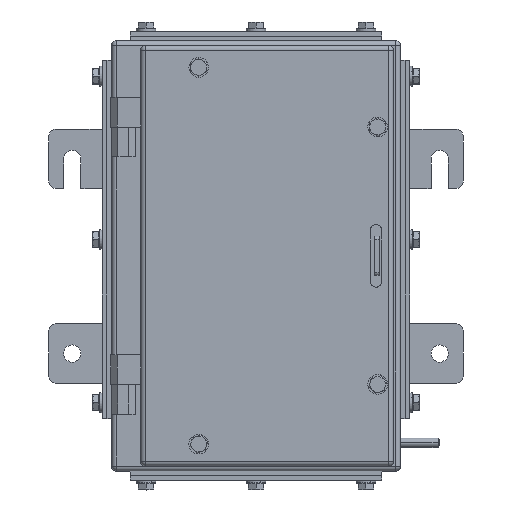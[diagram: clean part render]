
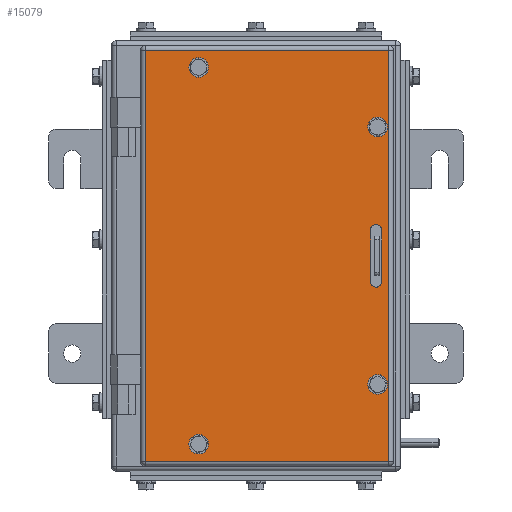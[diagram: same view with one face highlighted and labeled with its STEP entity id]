
A CAD part, top view. The second image highlights one B-rep face of the part: STEP entity #15079.
In plain terms, the highlighted planar face has unit normal (0, 0, 1).
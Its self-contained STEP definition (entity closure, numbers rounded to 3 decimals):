
#273 = ORIENTED_EDGE ( 'NONE', *, *, #11346, .T. ) ;
#331 = VERTEX_POINT ( 'NONE', #4341 ) ;
#391 = DIRECTION ( 'NONE',  ( 0., 0., 1. ) ) ;
#488 = EDGE_CURVE ( 'NONE', #1286, #4651, #4768, .T. ) ;
#516 = CARTESIAN_POINT ( 'NONE',  ( 158.5, -82., 18. ) ) ;
#822 = VERTEX_POINT ( 'NONE', #14802 ) ;
#1286 = VERTEX_POINT ( 'NONE', #13077 ) ;
#1326 = EDGE_CURVE ( 'NONE', #1595, #15748, #7083, .T. ) ;
#1349 = CARTESIAN_POINT ( 'NONE',  ( 44.5, -120., 18. ) ) ;
#1595 = VERTEX_POINT ( 'NONE', #15881 ) ;
#1616 = DIRECTION ( 'NONE',  ( 0., 0., 1. ) ) ;
#1644 = VECTOR ( 'NONE', #3699, 1000. ) ;
#1782 = EDGE_LOOP ( 'NONE', ( #20280, #21926 ) ) ;
#1883 = CARTESIAN_POINT ( 'NONE',  ( 169., 134., 18. ) ) ;
#2087 = VERTEX_POINT ( 'NONE', #6098 ) ;
#2167 = CARTESIAN_POINT ( 'NONE',  ( 14., 131., 18. ) ) ;
#2265 = CARTESIAN_POINT ( 'NONE',  ( 164.5, -16.5, 18. ) ) ;
#2542 = EDGE_CURVE ( 'NONE', #15748, #1595, #11794, .T. ) ;
#2694 = CARTESIAN_POINT ( 'NONE',  ( 162., 82., 18. ) ) ;
#2868 = VERTEX_POINT ( 'NONE', #19075 ) ;
#2951 = DIRECTION ( 'NONE',  ( 1., 0., 0. ) ) ;
#3109 = DIRECTION ( 'NONE',  ( 1., 0., 0. ) ) ;
#3331 = DIRECTION ( 'NONE',  ( 1., 0., 0. ) ) ;
#3413 = CARTESIAN_POINT ( 'NONE',  ( 157.5, 16.5, 18. ) ) ;
#3460 = AXIS2_PLACEMENT_3D ( 'NONE', #19292, #12585, #19395 ) ;
#3584 = EDGE_CURVE ( 'NONE', #7178, #6102, #12962, .T. ) ;
#3699 = DIRECTION ( 'NONE',  ( 1., 0., 0. ) ) ;
#3953 = EDGE_CURVE ( 'NONE', #822, #7178, #15215, .T. ) ;
#3997 = EDGE_LOOP ( 'NONE', ( #6697, #21460, #7171, #15665 ) ) ;
#4257 = EDGE_CURVE ( 'NONE', #10124, #2868, #14855, .T. ) ;
#4341 = CARTESIAN_POINT ( 'NONE',  ( 14., -131., 18. ) ) ;
#4508 = CIRCLE ( 'NONE', #14478, 3.5 ) ;
#4610 = FACE_BOUND ( 'NONE', #5254, .T. ) ;
#4613 = CARTESIAN_POINT ( 'NONE',  ( 162., 82., 18. ) ) ;
#4651 = VERTEX_POINT ( 'NONE', #21944 ) ;
#4740 = CIRCLE ( 'NONE', #12905, 3.5 ) ;
#4768 = CIRCLE ( 'NONE', #10830, 3.5 ) ;
#4844 = DIRECTION ( 'NONE',  ( -1., 0., 0. ) ) ;
#5198 = VECTOR ( 'NONE', #7077, 1000. ) ;
#5254 = EDGE_LOOP ( 'NONE', ( #11193, #18736 ) ) ;
#5616 = DIRECTION ( 'NONE',  ( 1., 0., 0. ) ) ;
#6098 = CARTESIAN_POINT ( 'NONE',  ( 169., 131., 18. ) ) ;
#6102 = VERTEX_POINT ( 'NONE', #19060 ) ;
#6279 = DIRECTION ( 'NONE',  ( 0., 0., 1. ) ) ;
#6553 = DIRECTION ( 'NONE',  ( -1., 0., 0. ) ) ;
#6632 = ORIENTED_EDGE ( 'NONE', *, *, #2542, .F. ) ;
#6661 = CARTESIAN_POINT ( 'NONE',  ( 48., 120., 18. ) ) ;
#6667 = LINE ( 'NONE', #1883, #10794 ) ;
#6697 = ORIENTED_EDGE ( 'NONE', *, *, #13395, .F. ) ;
#6746 = ORIENTED_EDGE ( 'NONE', *, *, #21207, .T. ) ;
#6787 = CARTESIAN_POINT ( 'NONE',  ( 48., 120., 18. ) ) ;
#7077 = DIRECTION ( 'NONE',  ( 0., -1., 0. ) ) ;
#7083 = CIRCLE ( 'NONE', #19539, 3.5 ) ;
#7171 = ORIENTED_EDGE ( 'NONE', *, *, #3584, .F. ) ;
#7178 = VERTEX_POINT ( 'NONE', #2265 ) ;
#7592 = VECTOR ( 'NONE', #6553, 1000. ) ;
#7608 = AXIS2_PLACEMENT_3D ( 'NONE', #6661, #18610, #3331 ) ;
#7777 = CARTESIAN_POINT ( 'NONE',  ( 157.5, 16.5, 18. ) ) ;
#7951 = CARTESIAN_POINT ( 'NONE',  ( 164.5, 16.5, 18. ) ) ;
#8031 = DIRECTION ( 'NONE',  ( 1., 0., 0. ) ) ;
#8251 = EDGE_CURVE ( 'NONE', #22004, #12233, #21164, .T. ) ;
#8426 = LINE ( 'NONE', #3413, #5198 ) ;
#9151 = LINE ( 'NONE', #15526, #1644 ) ;
#9621 = FACE_BOUND ( 'NONE', #17035, .T. ) ;
#9654 = EDGE_CURVE ( 'NONE', #6102, #21286, #13597, .T. ) ;
#9730 = DIRECTION ( 'NONE',  ( 1., 0., 0. ) ) ;
#9944 = DIRECTION ( 'NONE',  ( 1., 0., 0. ) ) ;
#9973 = AXIS2_PLACEMENT_3D ( 'NONE', #14865, #19981, #9944 ) ;
#10124 = VERTEX_POINT ( 'NONE', #1349 ) ;
#10238 = VERTEX_POINT ( 'NONE', #12037 ) ;
#10446 = DIRECTION ( 'NONE',  ( 0., 1., 0. ) ) ;
#10794 = VECTOR ( 'NONE', #10446, 1000. ) ;
#10830 = AXIS2_PLACEMENT_3D ( 'NONE', #6787, #11566, #3109 ) ;
#11182 = PLANE ( 'NONE',  #16669 ) ;
#11193 = ORIENTED_EDGE ( 'NONE', *, *, #488, .F. ) ;
#11346 = EDGE_CURVE ( 'NONE', #2087, #14146, #21496, .T. ) ;
#11398 = FACE_BOUND ( 'NONE', #18797, .T. ) ;
#11403 = ORIENTED_EDGE ( 'NONE', *, *, #20848, .F. ) ;
#11512 = CARTESIAN_POINT ( 'NONE',  ( 172., 134., 18. ) ) ;
#11566 = DIRECTION ( 'NONE',  ( 0., 0., 1. ) ) ;
#11632 = EDGE_CURVE ( 'NONE', #4651, #1286, #17242, .T. ) ;
#11794 = CIRCLE ( 'NONE', #12143, 3.5 ) ;
#11945 = VECTOR ( 'NONE', #17586, 1000. ) ;
#12037 = CARTESIAN_POINT ( 'NONE',  ( 169., -131., 18. ) ) ;
#12143 = AXIS2_PLACEMENT_3D ( 'NONE', #2694, #12820, #16416 ) ;
#12233 = VERTEX_POINT ( 'NONE', #516 ) ;
#12439 = LINE ( 'NONE', #19252, #11945 ) ;
#12585 = DIRECTION ( 'NONE',  ( 0., 0., 1. ) ) ;
#12820 = DIRECTION ( 'NONE',  ( 0., 0., 1. ) ) ;
#12822 = CARTESIAN_POINT ( 'NONE',  ( 161., -16.5, 18. ) ) ;
#12905 = AXIS2_PLACEMENT_3D ( 'NONE', #17338, #391, #5616 ) ;
#12962 = LINE ( 'NONE', #7951, #21757 ) ;
#13059 = DIRECTION ( 'NONE',  ( 1., 0., 0. ) ) ;
#13077 = CARTESIAN_POINT ( 'NONE',  ( 51.5, 120., 18. ) ) ;
#13123 = CARTESIAN_POINT ( 'NONE',  ( 172., 131., 18. ) ) ;
#13395 = EDGE_CURVE ( 'NONE', #21286, #822, #8426, .T. ) ;
#13597 = CIRCLE ( 'NONE', #9973, 3.5 ) ;
#13783 = EDGE_CURVE ( 'NONE', #2868, #10124, #4508, .T. ) ;
#13879 = CARTESIAN_POINT ( 'NONE',  ( 165.5, -82., 18. ) ) ;
#14010 = ORIENTED_EDGE ( 'NONE', *, *, #20346, .T. ) ;
#14146 = VERTEX_POINT ( 'NONE', #2167 ) ;
#14412 = EDGE_LOOP ( 'NONE', ( #6746, #21194, #273, #14010 ) ) ;
#14478 = AXIS2_PLACEMENT_3D ( 'NONE', #19988, #6279, #9730 ) ;
#14802 = CARTESIAN_POINT ( 'NONE',  ( 157.5, -16.5, 18. ) ) ;
#14855 = CIRCLE ( 'NONE', #3460, 3.5 ) ;
#14865 = CARTESIAN_POINT ( 'NONE',  ( 161., 16.5, 18. ) ) ;
#15040 = CARTESIAN_POINT ( 'NONE',  ( 165.5, 82., 18. ) ) ;
#15079 = ADVANCED_FACE ( 'NONE', ( #11398, #9621, #21341, #19666, #4610, #21670 ), #11182, .F. ) ;
#15215 = CIRCLE ( 'NONE', #18766, 3.5 ) ;
#15440 = ORIENTED_EDGE ( 'NONE', *, *, #1326, .F. ) ;
#15526 = CARTESIAN_POINT ( 'NONE',  ( 172., -131., 18. ) ) ;
#15665 = ORIENTED_EDGE ( 'NONE', *, *, #3953, .F. ) ;
#15748 = VERTEX_POINT ( 'NONE', #15040 ) ;
#15881 = CARTESIAN_POINT ( 'NONE',  ( 158.5, 82., 18. ) ) ;
#16196 = DIRECTION ( 'NONE',  ( 0., 0., 1. ) ) ;
#16416 = DIRECTION ( 'NONE',  ( 1., 0., 0. ) ) ;
#16669 = AXIS2_PLACEMENT_3D ( 'NONE', #11512, #18110, #4844 ) ;
#17035 = EDGE_LOOP ( 'NONE', ( #19425, #11403 ) ) ;
#17129 = EDGE_CURVE ( 'NONE', #10238, #2087, #6667, .T. ) ;
#17242 = CIRCLE ( 'NONE', #7608, 3.5 ) ;
#17338 = CARTESIAN_POINT ( 'NONE',  ( 162., -82., 18. ) ) ;
#17586 = DIRECTION ( 'NONE',  ( 0., -1., 0. ) ) ;
#18110 = DIRECTION ( 'NONE',  ( 0., 0., -1. ) ) ;
#18610 = DIRECTION ( 'NONE',  ( 0., 0., 1. ) ) ;
#18692 = AXIS2_PLACEMENT_3D ( 'NONE', #19650, #21327, #13059 ) ;
#18736 = ORIENTED_EDGE ( 'NONE', *, *, #11632, .F. ) ;
#18766 = AXIS2_PLACEMENT_3D ( 'NONE', #12822, #16196, #8031 ) ;
#18797 = EDGE_LOOP ( 'NONE', ( #6632, #15440 ) ) ;
#19060 = CARTESIAN_POINT ( 'NONE',  ( 164.5, 16.5, 18. ) ) ;
#19075 = CARTESIAN_POINT ( 'NONE',  ( 51.5, -120., 18. ) ) ;
#19252 = CARTESIAN_POINT ( 'NONE',  ( 14., 134., 18. ) ) ;
#19292 = CARTESIAN_POINT ( 'NONE',  ( 48., -120., 18. ) ) ;
#19395 = DIRECTION ( 'NONE',  ( 1., 0., 0. ) ) ;
#19425 = ORIENTED_EDGE ( 'NONE', *, *, #8251, .F. ) ;
#19539 = AXIS2_PLACEMENT_3D ( 'NONE', #4613, #1616, #2951 ) ;
#19650 = CARTESIAN_POINT ( 'NONE',  ( 162., -82., 18. ) ) ;
#19666 = FACE_BOUND ( 'NONE', #1782, .T. ) ;
#19764 = DIRECTION ( 'NONE',  ( 0., 1., 0. ) ) ;
#19981 = DIRECTION ( 'NONE',  ( 0., 0., 1. ) ) ;
#19988 = CARTESIAN_POINT ( 'NONE',  ( 48., -120., 18. ) ) ;
#20280 = ORIENTED_EDGE ( 'NONE', *, *, #13783, .F. ) ;
#20346 = EDGE_CURVE ( 'NONE', #14146, #331, #12439, .T. ) ;
#20848 = EDGE_CURVE ( 'NONE', #12233, #22004, #4740, .T. ) ;
#21164 = CIRCLE ( 'NONE', #18692, 3.5 ) ;
#21194 = ORIENTED_EDGE ( 'NONE', *, *, #17129, .T. ) ;
#21207 = EDGE_CURVE ( 'NONE', #331, #10238, #9151, .T. ) ;
#21286 = VERTEX_POINT ( 'NONE', #7777 ) ;
#21327 = DIRECTION ( 'NONE',  ( 0., 0., 1. ) ) ;
#21341 = FACE_BOUND ( 'NONE', #3997, .T. ) ;
#21460 = ORIENTED_EDGE ( 'NONE', *, *, #9654, .F. ) ;
#21496 = LINE ( 'NONE', #13123, #7592 ) ;
#21670 = FACE_OUTER_BOUND ( 'NONE', #14412, .T. ) ;
#21757 = VECTOR ( 'NONE', #19764, 1000. ) ;
#21926 = ORIENTED_EDGE ( 'NONE', *, *, #4257, .F. ) ;
#21944 = CARTESIAN_POINT ( 'NONE',  ( 44.5, 120., 18. ) ) ;
#22004 = VERTEX_POINT ( 'NONE', #13879 ) ;
